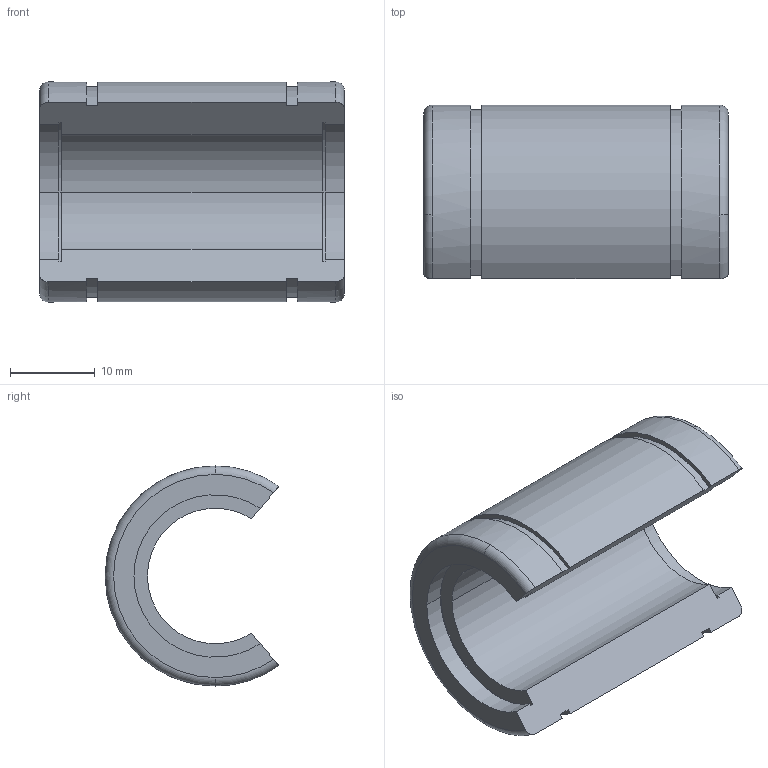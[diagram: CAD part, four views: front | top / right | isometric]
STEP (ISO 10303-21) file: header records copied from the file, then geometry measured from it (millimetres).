
FILE_DESCRIPTION( ( '' ), '1' );
FILE_NAME( '//partserver001.servicenet/client_exchange/iodir/jobs/output/wkb20114322_no5/STEP/ubm_16op_ww_2_03.stp', '2009-11-12T13:08:04', ( '' ), ( '' ), ' ', ' ', ' ' );
FILE_SCHEMA( ( 'CONFIG_CONTROL_DESIGN' ) );
Length unit declared in the file: millimetre
Products named in the file (1): 1
Bounding box: 36 x 20.52 x 26 mm (x, y, z)
Volume: 7772.2 mm3; surface area: 4227 mm2
Topology: 1 solids, 1 shells, 38 faces, 108 edges, 72 vertices
Faces by surface type: cylinder 20, plane 12, torus 6
Entity records: 1370 total; most frequent: CARTESIAN_POINT 287, DIRECTION 236, ORIENTED_EDGE 216, EDGE_CURVE 108, AXIS2_PLACEMENT_3D 93, VERTEX_POINT 72, CIRCLE 54, LINE 50
